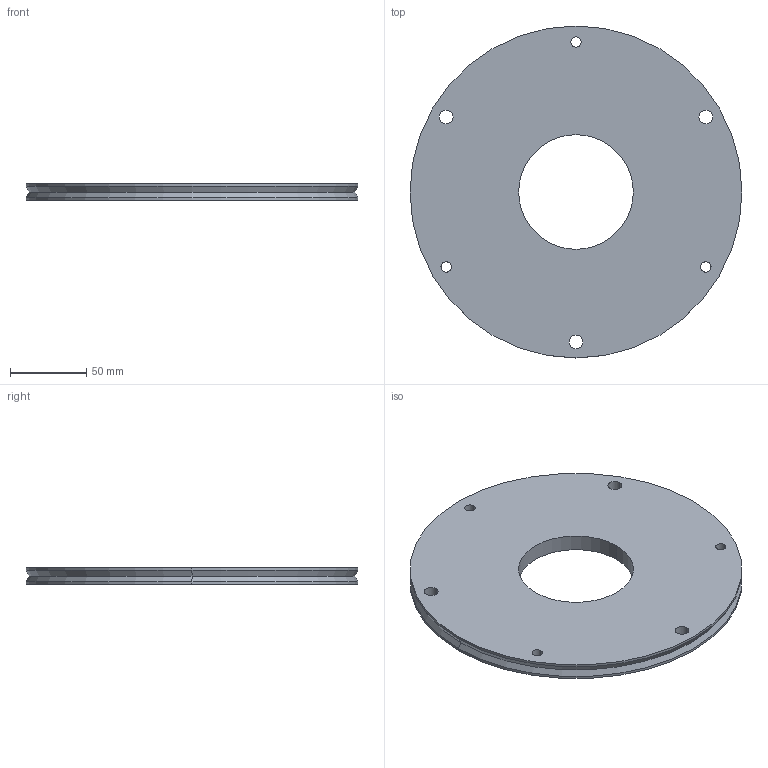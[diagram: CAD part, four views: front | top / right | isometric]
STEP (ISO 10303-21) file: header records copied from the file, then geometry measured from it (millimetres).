
FILE_DESCRIPTION (( 'STEP AP214' ), '1' );
FILE_NAME ('0838 Flansch.STEP', '2025-03-26T13:05:11', ( '' ), ( '' ), 'SwSTEP 2.0', 'SolidWorks 2022', '' );
FILE_SCHEMA (( 'AUTOMOTIVE_DESIGN' ));
Length unit declared in the file: millimetre
Products named in the file (1): 0838 Flansch
Bounding box: 217 x 217 x 11 mm (x, y, z)
Volume: 349719.3 mm3; surface area: 76873.6 mm2
Topology: 1 solids, 1 shells, 24 faces, 60 edges, 38 vertices
Faces by surface type: cylinder 18, cone 4, plane 2
Entity records: 818 total; most frequent: DIRECTION 148, CARTESIAN_POINT 123, ORIENTED_EDGE 120, AXIS2_PLACEMENT_3D 63, EDGE_CURVE 60, VERTEX_POINT 38, CIRCLE 38, EDGE_LOOP 38
